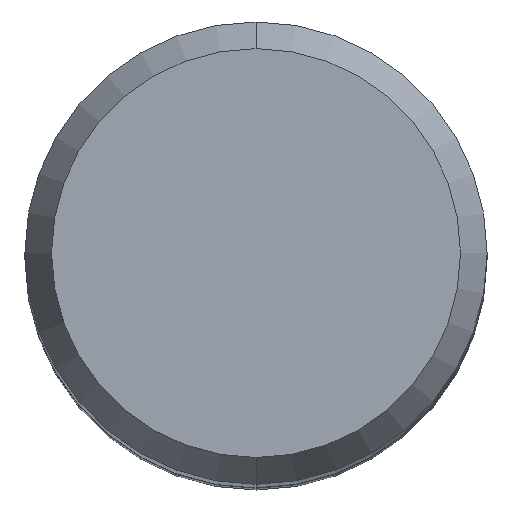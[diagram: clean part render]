
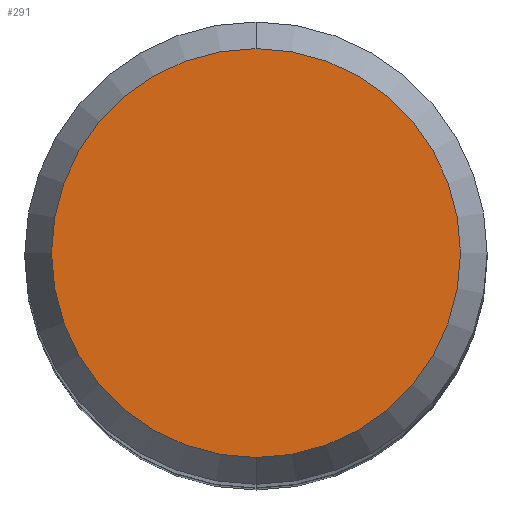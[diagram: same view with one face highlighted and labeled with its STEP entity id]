
A CAD part, top view. The second image highlights one B-rep face of the part: STEP entity #291.
In plain terms, the highlighted planar face has unit normal (0, 0, 1).
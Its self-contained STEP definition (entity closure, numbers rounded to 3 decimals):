
#235=EDGE_CURVE('',#489,#405,#627,.T.);
#291=ADVANCED_FACE('',(#690),#691,.T.);
#405=VERTEX_POINT('',#814);
#459=EDGE_CURVE('',#405,#489,#875,.T.);
#489=VERTEX_POINT('',#912);
#627=CIRCLE('',#1061,4.423);
#690=FACE_OUTER_BOUND('',#1229,.T.);
#691=PLANE('',#1230);
#814=CARTESIAN_POINT('',(0.0,4.423,0.0));
#875=CIRCLE('',#1534,4.423);
#912=CARTESIAN_POINT('',(0.,-4.423,0.0));
#1061=AXIS2_PLACEMENT_3D('',#1844,#1845,#1846);
#1229=EDGE_LOOP('',(#1907,#1908));
#1230=AXIS2_PLACEMENT_3D('',#1909,#1910,#1911);
#1534=AXIS2_PLACEMENT_3D('',#2111,#2112,#2113);
#1844=CARTESIAN_POINT('',(0.0,0.0,0.0));
#1845=DIRECTION('',(0.0,0.0,-1.0));
#1846=DIRECTION('',(0.0,1.0,0.0));
#1907=ORIENTED_EDGE('',*,*,#459,.F.);
#1908=ORIENTED_EDGE('',*,*,#235,.F.);
#1909=CARTESIAN_POINT('',(0.0,2.211,0.0));
#1910=DIRECTION('',(-0.0,0.0,1.0));
#1911=DIRECTION('',(0.0,-1.0,0.0));
#2111=CARTESIAN_POINT('',(0.0,0.0,0.0));
#2112=DIRECTION('',(0.0,0.0,-1.0));
#2113=DIRECTION('',(0.0,1.0,0.0));
